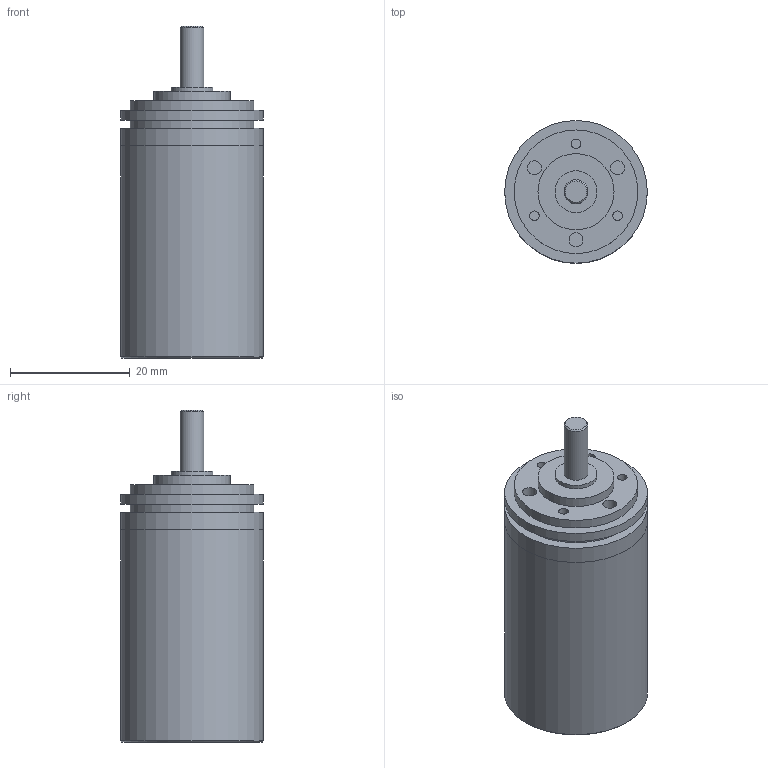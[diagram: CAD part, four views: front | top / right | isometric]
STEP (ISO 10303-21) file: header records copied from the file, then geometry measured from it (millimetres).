
FILE_DESCRIPTION(/* description */ (''),/* implementation_level */ '2;1');
FILE_NAME(/* name */ '22-2K_2.stp',/* time_stamp */ '2016-08-26T11:27:39+02:00',/* author */ ('DR. FRITZ FAULHABER GmbH & Co. KG'),/* organization */ ('DR. FRITZ FAULHABER GmbH & Co. KG'),/* preprocessor_version */ 'ST-DEVELOPER v16',/* originating_system */ 'SIEMENS PLM Software NX 10.0',/* authorisation */ '');
FILE_SCHEMA (('AUTOMOTIVE_DESIGN { 1 0 10303 214 3 1 1 1 }'));
Length unit declared in the file: millimetre
Products named in the file (1): H00000457_A
Bounding box: 23.8 x 23.8 x 55.4 mm (x, y, z)
Volume: 11372.9 mm3; surface area: 6135.7 mm2
Topology: 1 solids, 1 shells, 42 faces, 65 edges, 43 vertices
Faces by surface type: plane 20, cylinder 19, cone 3
Full cylindrical faces by diameter (mm): 1.6 x3, 2.329 x3, 3.5 x1, 4 x1, 4.5 x1, 7 x2, 12.7 x1, 20.63 x2, 22 x1, 23.79 x1, 23.8 x3
Entity records: 858 total; most frequent: DIRECTION 168, CARTESIAN_POINT 125, AXIS2_PLACEMENT_3D 84, EDGE_LOOP 82, ORIENTED_EDGE 82, FACE_BOUND 74, ADVANCED_FACE 42, VERTEX_POINT 41
